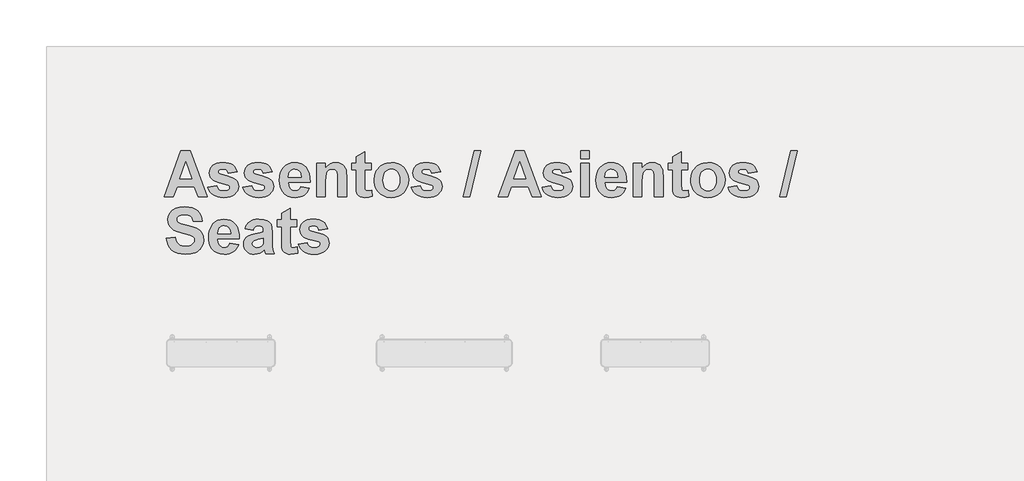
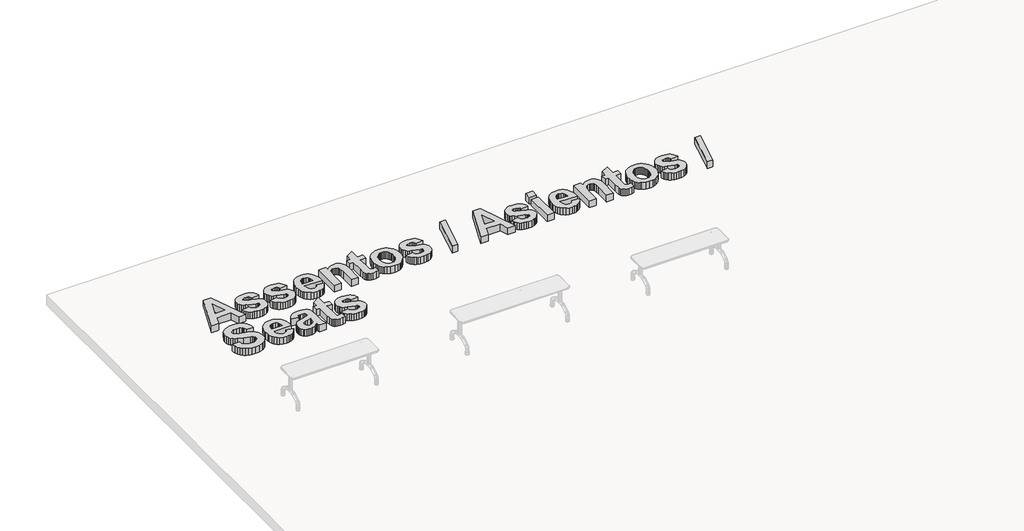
# One storey, part 7 of 11: 1 proxy.
"""IFC4 building model written with IfcOpenShell, lengths in millimetres."""

from ifc_helpers import new_model, si_unit, origin, origin_with_axes, place, context, project, spatial, polyline, outline, extrude, element, save

model = new_model("IFC4")

# Units and contexts
model_context = context("Model", 3, world=origin())
ifc_project = project(units=[si_unit("LENGTHUNIT", "METRE", prefix="MILLI")], contexts=[model_context])

# Site, building, storey
site = spatial("IfcSite", under=ifc_project)
building = spatial("IfcBuilding", under=site)
storey = spatial("IfcBuildingStorey", under=building, Name="Biblioteca BIM Revit Metadil - Refeitório", Elevation=0.0)

# Proxy
placement = place(None, origin())
element("IfcBuildingElementProxy", 1, Name="Arial 500mm", ObjectType="Arial 500mm", at=placement, inside=storey, context=model_context, shape_type="SweptSolid", body=[
    extrude(outline(polyline([(-16829.8973992, 11668.448354), (-16931.9992513, 11668.448354), (-16971.9796544, 11781.8105095), (-17164.6700148, 11781.8105095), (-17204.1443368, 11668.448354), (-17307.6379119, 11668.448354), (-17121.4000849, 12178.5780539), (-17017.9065098, 12178.5780539), (-16829.8973992, 11668.448354)]), holes=[polyline([(-17003.1036391, 11870.8807746), (-17068.7676555, 12057.1186016), (-17133.5460301, 11870.8807746), (-17003.1036391, 11870.8807746)])]), origin_with_axes(), (0.0, 0.0, 1.0), 100.0),
    extrude(outline(polyline([(-16821.8001024, 11773.7132127), (-16724.6325405, 11789.9078063), (-16715.3807462, 11765.4261355), (-16699.7713088, 11747.6500385), (-16677.266517, 11736.8325561), (-16647.3286598, 11733.2267286), (-16614.8445823, 11736.6744057), (-16591.5332239, 11747.0174372), (-16582.0442042, 11758.2777406), (-16578.8811976, 11772.8275708), (-16580.5575911, 11782.8859317), (-16585.5867715, 11791.0464887), (-16597.0684854, 11797.7204326), (-16617.3433575, 11803.8250353), (-16711.1897625, 11828.6862669), (-16742.3374697, 11840.3103161), (-16762.9681801, 11851.3966541), (-16781.6220114, 11867.9154559), (-16794.9461766, 11887.3600388), (-16802.9406757, 11909.7304028), (-16805.6055087, 11935.0265479), (-16803.3202365, 11958.1718485), (-16796.4644197, 11979.4035301), (-16785.0380585, 11998.7215927), (-16769.0411527, 12016.1260364), (-16748.236477, 12030.5177163), (-16722.3868058, 12040.7974877), (-16691.4921391, 12046.9653505), (-16655.5524769, 12049.0213047), (-16621.3366533, 12047.3607263), (-16591.8178945, 12042.3789909), (-16566.9962004, 12034.0760987), (-16546.8715711, 12022.4520495), (-16530.4792895, 12007.5701036), (-16516.8546387, 11989.493521), (-16505.9976187, 11968.2223019), (-16497.9082294, 11943.756446), (-16595.0757913, 11927.5618524), (-16602.2241861, 11948.3428055), (-16613.8007902, 11963.6201273), (-16630.5014649, 11973.0142568), (-16653.0220717, 11976.1456333), (-16680.6983792, 11973.4887078), (-16699.2019676, 11965.5179312), (-16706.128952, 11956.7880331), (-16708.4379468, 11945.7807702), (-16706.128952, 11936.2601204), (-16699.2019676, 11928.1944537), (-16671.5098451, 11916.5862196), (-16613.231449, 11900.9925972), (-16550.7778842, 11881.3503263), (-16527.8895779, 11869.9872252), (-16510.5602556, 11857.596147), (-16497.9398594, 11843.2123746), (-16488.9252907, 11826.2507519), (-16483.5165495, 11806.7112788), (-16481.7136357, 11784.5939553), (-16484.3270699, 11759.9976254), (-16492.1673724, 11737.1963018), (-16505.2345433, 11716.1899844), (-16523.5285826, 11696.9786732), (-16546.9466925, 11680.9540912), (-16575.3860753, 11669.5079612), (-16608.8467311, 11662.6402831), (-16647.3286598, 11660.3510571), (-16682.5843218, 11662.2567686), (-16713.9573933, 11667.973903), (-16741.4478742, 11677.5024603), (-16765.0557645, 11690.8424405), (-16784.8522318, 11707.4561325), (-16800.908444, 11726.8058252), (-16813.2244008, 11748.8915186), (-16821.8001024, 11773.7132127)])), origin_with_axes(), (0.0, 0.0, 1.0), 100.0),
    extrude(outline(polyline([(-16433.1298548, 11773.7132127), (-16335.9622929, 11789.9078063), (-16326.7104986, 11765.4261355), (-16311.1010612, 11747.6500385), (-16288.5962694, 11736.8325561), (-16258.6584122, 11733.2267286), (-16226.1743347, 11736.6744057), (-16202.8629763, 11747.0174372), (-16193.3739566, 11758.2777406), (-16190.21095, 11772.8275708), (-16191.8873435, 11782.8859317), (-16196.9165239, 11791.0464887), (-16208.3982378, 11797.7204326), (-16228.6731099, 11803.8250353), (-16322.5195149, 11828.6862669), (-16353.6672221, 11840.3103161), (-16374.2979325, 11851.3966541), (-16392.9517638, 11867.9154559), (-16406.275929, 11887.3600388), (-16414.2704281, 11909.7304028), (-16416.9352611, 11935.0265479), (-16414.6499889, 11958.1718485), (-16407.7941721, 11979.4035301), (-16396.3678109, 11998.7215927), (-16380.3709051, 12016.1260364), (-16359.5662294, 12030.5177163), (-16333.7165582, 12040.7974877), (-16302.8218915, 12046.9653505), (-16266.8822293, 12049.0213047), (-16232.6664057, 12047.3607263), (-16203.1476469, 12042.3789909), (-16178.3259528, 12034.0760987), (-16158.2013235, 12022.4520495), (-16141.8090419, 12007.5701036), (-16128.1843911, 11989.493521), (-16117.3273711, 11968.2223019), (-16109.2379818, 11943.756446), (-16206.4055437, 11927.5618524), (-16213.5539385, 11948.3428055), (-16225.1305426, 11963.6201273), (-16241.8312173, 11973.0142568), (-16264.3518241, 11976.1456333), (-16292.0281316, 11973.4887078), (-16310.53172, 11965.5179312), (-16317.4587044, 11956.7880331), (-16319.7676992, 11945.7807702), (-16317.4587044, 11936.2601204), (-16310.53172, 11928.1944537), (-16282.8395975, 11916.5862196), (-16224.5612014, 11900.9925972), (-16162.1076366, 11881.3503263), (-16139.2193303, 11869.9872252), (-16121.890008, 11857.596147), (-16109.2696118, 11843.2123746), (-16100.2550431, 11826.2507519), (-16094.8463019, 11806.7112788), (-16093.0433881, 11784.5939553), (-16095.6568223, 11759.9976254), (-16103.4971248, 11737.1963018), (-16116.5642957, 11716.1899844), (-16134.858335, 11696.9786732), (-16158.2764449, 11680.9540912), (-16186.7158277, 11669.5079612), (-16220.1764835, 11662.6402831), (-16258.6584122, 11660.3510571), (-16293.9140742, 11662.2567686), (-16325.2871457, 11667.973903), (-16352.7776265, 11677.5024603), (-16376.3855169, 11690.8424405), (-16396.1819842, 11707.4561325), (-16412.2381963, 11726.8058252), (-16424.5541532, 11748.8915186), (-16433.1298548, 11773.7132127)])), origin_with_axes(), (0.0, 0.0, 1.0), 100.0),
    extrude(outline(polyline([(-15793.4434056, 11781.8105095), (-15696.2758437, 11765.6159159), (-15706.7770255, 11741.4070543), (-15719.9351328, 11720.2742166), (-15735.7501657, 11702.2174029), (-15754.2221241, 11687.236613), (-15775.2640253, 11675.4741823), (-15798.7888867, 11667.0724461), (-15824.7967082, 11662.0314044), (-15853.2874899, 11660.3510571), (-15897.2928189, 11664.3127229), (-15935.1777301, 11676.1977201), (-15966.9422236, 11696.0060487), (-15992.5862994, 11723.7377088), (-16008.1957368, 11750.7735075), (-16019.345335, 11781.1462781), (-16026.0350939, 11814.8560207), (-16028.2650135, 11851.9027352), (-16025.3076024, 11895.5838559), (-16016.4353689, 11934.2674263), (-16001.6483132, 11967.9534463), (-15980.9464352, 11996.6419159), (-15955.7214578, 12019.5578985), (-15927.3651038, 12035.9264575), (-15895.8773734, 12045.7475929), (-15861.2582665, 12049.0213047), (-15822.7881991, 12045.6606103), (-15788.6040055, 12035.5785268), (-15758.7056859, 12018.7750544), (-15733.0932402, 11995.250193), (-15712.6839403, 11964.7825322), (-15698.3950581, 11927.1506615), (-15690.2265936, 11882.3545809), (-15688.1785469, 11830.3942905), (-15931.0974516, 11830.3942905), (-15924.8663287, 11789.4649854), (-15917.8365466, 11772.8433859), (-15908.197284, 11758.7838217), (-15896.5811424, 11747.6025934), (-15883.620723, 11739.6160018), (-15869.3160257, 11734.8240469), (-15853.6670507, 11733.2267286), (-15833.2656583, 11736.1050645), (-15816.3435732, 11744.7400725), (-15803.0273155, 11759.7643537), (-15793.4434056, 11781.8105095)]), holes=[polyline([(-15785.3461088, 11887.0753682), (-15791.260931, 11925.4900831), (-15797.8953373, 11940.7713586), (-15806.9810737, 11953.4352461), (-15829.8179812, 11970.4680365), (-15857.0830978, 11976.1456333), (-15872.1548241, 11974.6511127), (-15885.8664576, 11970.1675509), (-15898.2179983, 11962.6949479), (-15909.2094461, 11952.2333036), (-15918.1607547, 11939.1463639), (-15924.5183979, 11923.9243948), (-15929.4526882, 11887.0753682), (-15785.3461088, 11887.0753682)])]), origin_with_axes(), (0.0, 0.0, 1.0), 100.0),
    extrude(outline(polyline([(-15283.3137056, 11668.448354), (-15380.4812675, 11668.448354), (-15380.4812675, 11859.8735117), (-15381.9995107, 11909.9755358), (-15386.5542401, 11938.5691152), (-15394.5566467, 11954.4157782), (-15406.4179214, 11966.2770528), (-15421.5687229, 11973.6784882), (-15439.43971, 11976.1456333), (-15462.9566639, 11972.618881), (-15483.9115824, 11962.038624), (-15500.4857369, 11945.6226199), (-15510.8603984, 11924.5886262), (-15516.3165847, 11891.3612421), (-15518.1353135, 11838.365067), (-15518.1353135, 11668.448354), (-15615.3028754, 11668.448354), (-15615.3028754, 12040.9240079), (-15518.1353135, 12040.9240079), (-15518.1353135, 11987.2794164), (-15493.5508449, 12014.2914926), (-15465.9773351, 12033.5858327), (-15435.4147841, 12045.1624367), (-15401.8631919, 12049.0213047), (-15372.3207105, 12046.0797086), (-15345.4351547, 12037.2549203), (-15322.977808, 12023.8754025), (-15306.7199542, 12007.269618), (-15295.5703561, 11987.8329426), (-15288.4377762, 11965.9607522), (-15284.5947233, 11937.8574388), (-15283.3137056, 11899.7273945), (-15283.3137056, 11668.448354)])), origin_with_axes(), (0.0, 0.0, 1.0), 100.0),
    extrude(outline(polyline([(-15008.0056135, 12040.9240079), (-15008.0056135, 11968.0483365), (-15080.881285, 11968.0483365), (-15080.881285, 11808.2532445), (-15078.6671804, 11751.7619471), (-15068.6088195, 11738.4773195), (-15049.5042598, 11733.2267286), (-15003.9569651, 11742.589228), (-14999.9083167, 11673.5091645), (-15037.3899446, 11663.640584), (-15079.4895621, 11660.3510571), (-15105.3629558, 11662.6284219), (-15128.5794241, 11669.4605161), (-15147.5416485, 11679.8984378), (-15160.6523107, 11692.993285), (-15169.3031337, 11709.9786303), (-15174.8858403, 11732.0880462), (-15178.0488469, 11802.8128732), (-15178.0488469, 11968.0483365), (-15226.6326278, 11968.0483365), (-15226.6326278, 12040.9240079), (-15178.0488469, 12040.9240079), (-15178.0488469, 12113.7996793), (-15080.881285, 12170.4807571), (-15080.881285, 12040.9240079), (-15008.0056135, 12040.9240079)])), origin_with_axes(), (0.0, 0.0, 1.0), 100.0),
    extrude(outline(polyline([(-14975.6164262, 11860.000032), (-14969.6225288, 11908.1884371), (-14951.6408364, 11954.826969), (-14938.4076077, 11976.4026276), (-14922.6835113, 11995.266008), (-14904.4685472, 12011.4171104), (-14883.7627154, 12024.8559345), (-14861.1709409, 12035.428284), (-14837.2981488, 12042.9799622), (-14785.7095116, 12049.0213047), (-14745.7251548, 12045.5973501), (-14709.5284984, 12035.3254863), (-14677.1195423, 12018.2057132), (-14648.4982865, 11994.2380309), (-14625.1118067, 11965.0355727), (-14608.4071782, 11932.211472), (-14598.3844012, 11895.7657288), (-14595.0434755, 11855.698343), (-14598.419985, 11815.3107029), (-14608.5495135, 11778.5367977), (-14625.4320611, 11745.3766276), (-14649.0676277, 11715.8301924), (-14677.8193575, 11691.5580707), (-14710.0503944, 11674.220841), (-14745.7607386, 11663.8185031), (-14784.9503901, 11660.3510571), (-14834.498888, 11666.1235441), (-14881.6751311, 11683.4410051), (-14903.294281, 11696.3342107), (-14922.1616152, 11711.9238793), (-14938.2771337, 11730.210011), (-14951.6408364, 11751.1926059), (-14962.130157, 11774.7411898), (-14969.6225288, 11800.7252888), (-14974.1179519, 11829.1449029), (-14975.6164262, 11860.000032)]), holes=[polyline([(-14878.4488643, 11854.6861809), (-14876.7685171, 11826.9901046), (-14871.7274754, 11802.733798), (-14863.3257392, 11781.917261), (-14851.5633085, 11764.5404936), (-14837.3337327, 11750.8407214), (-14821.5305611, 11741.0551698), (-14804.1537937, 11735.1838389), (-14785.2034306, 11733.2267286), (-14766.260975, 11735.1838389), (-14748.9079302, 11741.0551698), (-14733.1442962, 11750.8407214), (-14718.970073, 11764.5404936), (-14707.2629949, 11781.9647061), (-14698.9007963, 11802.9235784), (-14693.8834771, 11827.4171105), (-14692.2110374, 11855.4453025), (-14693.8834771, 11882.8092631), (-14698.9007963, 11906.8283443), (-14707.2629949, 11927.502546), (-14718.970073, 11944.8318682), (-14733.1442962, 11958.5316405), (-14748.9079302, 11968.317192), (-14766.260975, 11974.188523), (-14785.2034306, 11976.1456333), (-14804.1537937, 11974.188523), (-14821.5305611, 11968.317192), (-14837.3337327, 11958.5316405), (-14851.5633085, 11944.8318682), (-14863.3257392, 11927.4551009), (-14871.7274754, 11906.6385639), (-14876.7685171, 11882.3822572), (-14878.4488643, 11854.6861809)])]), origin_with_axes(), (0.0, 0.0, 1.0), 100.0),
    extrude(outline(polyline([(-14562.6542882, 11773.7132127), (-14465.4867263, 11789.9078063), (-14456.234932, 11765.4261355), (-14440.6254946, 11747.6500385), (-14418.1207028, 11736.8325561), (-14388.1828456, 11733.2267286), (-14355.6987681, 11736.6744057), (-14332.3874097, 11747.0174372), (-14322.89839, 11758.2777406), (-14319.7353834, 11772.8275708), (-14321.4117769, 11782.8859317), (-14326.4409574, 11791.0464887), (-14337.9226712, 11797.7204326), (-14358.1975433, 11803.8250353), (-14452.0439483, 11828.6862669), (-14483.1916556, 11840.3103161), (-14503.8223659, 11851.3966541), (-14522.4761972, 11867.9154559), (-14535.8003624, 11887.3600388), (-14543.7948615, 11909.7304028), (-14546.4596945, 11935.0265479), (-14544.1744223, 11958.1718485), (-14537.3186055, 11979.4035301), (-14525.8922443, 11998.7215927), (-14509.8953385, 12016.1260364), (-14489.0906628, 12030.5177163), (-14463.2409916, 12040.7974877), (-14432.3463249, 12046.9653505), (-14396.4066627, 12049.0213047), (-14362.1908391, 12047.3607263), (-14332.6720803, 12042.3789909), (-14307.8503862, 12034.0760987), (-14287.7257569, 12022.4520495), (-14271.3334753, 12007.5701036), (-14257.7088245, 11989.493521), (-14246.8518045, 11968.2223019), (-14238.7624152, 11943.756446), (-14335.9299771, 11927.5618524), (-14343.0783719, 11948.3428055), (-14354.654976, 11963.6201273), (-14371.3556507, 11973.0142568), (-14393.8762575, 11976.1456333), (-14421.552565, 11973.4887078), (-14440.0561534, 11965.5179312), (-14446.9831378, 11956.7880331), (-14449.2921326, 11945.7807702), (-14446.9831378, 11936.2601204), (-14440.0561534, 11928.1944537), (-14412.3640309, 11916.5862196), (-14354.0856348, 11900.9925972), (-14291.63207, 11881.3503263), (-14268.7437637, 11869.9872252), (-14251.4144415, 11857.596147), (-14238.7940452, 11843.2123746), (-14229.7794765, 11826.2507519), (-14224.3707353, 11806.7112788), (-14222.5678215, 11784.5939553), (-14225.1812557, 11759.9976254), (-14233.0215582, 11737.1963018), (-14246.0887291, 11716.1899844), (-14264.3827684, 11696.9786732), (-14287.8008783, 11680.9540912), (-14316.2402612, 11669.5079612), (-14349.7009169, 11662.6402831), (-14388.1828456, 11660.3510571), (-14423.4385076, 11662.2567686), (-14454.8115791, 11667.973903), (-14482.30206, 11677.5024603), (-14505.9099503, 11690.8424405), (-14525.7064176, 11707.4561325), (-14541.7626298, 11726.8058252), (-14554.0785866, 11748.8915186), (-14562.6542882, 11773.7132127)])), origin_with_axes(), (0.0, 0.0, 1.0), 100.0),
    extrude(outline(polyline([(-13989.5174973, 11668.448354), (-13868.0580449, 12178.5780539), (-13793.4110898, 12178.5780539), (-13914.8705422, 11668.448354), (-13989.5174973, 11668.448354)])), origin_with_axes(), (0.0, 0.0, 1.0), 100.0),
    extrude(outline(polyline([(-13121.3354533, 11668.448354), (-13223.4373055, 11668.448354), (-13263.4177085, 11781.8105095), (-13456.1080689, 11781.8105095), (-13495.5823909, 11668.448354), (-13599.075966, 11668.448354), (-13412.838139, 12178.5780539), (-13309.344564, 12178.5780539), (-13121.3354533, 11668.448354)]), holes=[polyline([(-13294.5416932, 11870.8807746), (-13360.2057096, 12057.1186016), (-13424.9840843, 11870.8807746), (-13294.5416932, 11870.8807746)])]), origin_with_axes(), (0.0, 0.0, 1.0), 100.0),
    extrude(outline(polyline([(-13113.2381565, 11773.7132127), (-13016.0705946, 11789.9078063), (-13006.8188004, 11765.4261355), (-12991.2093629, 11747.6500385), (-12968.7045712, 11736.8325561), (-12938.766714, 11733.2267286), (-12906.2826365, 11736.6744057), (-12882.971278, 11747.0174372), (-12873.4822583, 11758.2777406), (-12870.3192517, 11772.8275708), (-12871.9956452, 11782.8859317), (-12877.0248257, 11791.0464887), (-12888.5065395, 11797.7204326), (-12908.7814117, 11803.8250353), (-13002.6278167, 11828.6862669), (-13033.7755239, 11840.3103161), (-13054.4062342, 11851.3966541), (-13073.0600655, 11867.9154559), (-13086.3842307, 11887.3600388), (-13094.3787298, 11909.7304028), (-13097.0435628, 11935.0265479), (-13094.7582906, 11958.1718485), (-13087.9024738, 11979.4035301), (-13076.4761126, 11998.7215927), (-13060.4792069, 12016.1260364), (-13039.6745311, 12030.5177163), (-13013.8248599, 12040.7974877), (-12982.9301932, 12046.9653505), (-12946.990531, 12049.0213047), (-12912.7747075, 12047.3607263), (-12883.2559486, 12042.3789909), (-12858.4342545, 12034.0760987), (-12838.3096252, 12022.4520495), (-12821.9173437, 12007.5701036), (-12808.2926929, 11989.493521), (-12797.4356728, 11968.2223019), (-12789.3462835, 11943.756446), (-12886.5138454, 11927.5618524), (-12893.6622402, 11948.3428055), (-12905.2388443, 11963.6201273), (-12921.939519, 11973.0142568), (-12944.4601258, 11976.1456333), (-12972.1364333, 11973.4887078), (-12990.6400217, 11965.5179312), (-12997.5670061, 11956.7880331), (-12999.8760009, 11945.7807702), (-12997.5670061, 11936.2601204), (-12990.6400217, 11928.1944537), (-12962.9478992, 11916.5862196), (-12904.6695031, 11900.9925972), (-12842.2159383, 11881.3503263), (-12819.327632, 11869.9872252), (-12801.9983098, 11857.596147), (-12789.3779135, 11843.2123746), (-12780.3633448, 11826.2507519), (-12774.9546036, 11806.7112788), (-12773.1516898, 11784.5939553), (-12775.765124, 11759.9976254), (-12783.6054266, 11737.1963018), (-12796.6725975, 11716.1899844), (-12814.9666367, 11696.9786732), (-12838.3847466, 11680.9540912), (-12866.8241295, 11669.5079612), (-12900.2847852, 11662.6402831), (-12938.766714, 11660.3510571), (-12974.022376, 11662.2567686), (-13005.3954474, 11667.973903), (-13032.8859283, 11677.5024603), (-13056.4938186, 11690.8424405), (-13076.290286, 11707.4561325), (-13092.3464981, 11726.8058252), (-13104.6624549, 11748.8915186), (-13113.2381565, 11773.7132127)])), origin_with_axes(), (0.0, 0.0, 1.0), 100.0),
    extrude(outline(polyline([(-12684.0814248, 12089.5077889), (-12684.0814248, 12178.5780539), (-12586.9138629, 12178.5780539), (-12586.9138629, 12089.5077889), (-12684.0814248, 12089.5077889)])), origin_with_axes(), (0.0, 0.0, 1.0), 100.0),
    extrude(outline(polyline([(-12684.0814248, 11668.448354), (-12684.0814248, 12040.9240079), (-12586.9138629, 12040.9240079), (-12586.9138629, 11668.448354), (-12684.0814248, 11668.448354)])), origin_with_axes(), (0.0, 0.0, 1.0), 100.0),
    extrude(outline(polyline([(-12279.2165835, 11781.8105095), (-12182.0490216, 11765.6159159), (-12192.5502034, 11741.4070543), (-12205.7083108, 11720.2742166), (-12221.5233436, 11702.2174029), (-12239.995302, 11687.236613), (-12261.0372032, 11675.4741823), (-12284.5620646, 11667.0724461), (-12310.5698862, 11662.0314044), (-12339.0606679, 11660.3510571), (-12383.0659968, 11664.3127229), (-12420.950908, 11676.1977201), (-12452.7154015, 11696.0060487), (-12478.3594773, 11723.7377088), (-12493.9689147, 11750.7735075), (-12505.1185129, 11781.1462781), (-12511.8082718, 11814.8560207), (-12514.0381914, 11851.9027352), (-12511.0807803, 11895.5838559), (-12502.2085469, 11934.2674263), (-12487.4214911, 11967.9534463), (-12466.7196131, 11996.6419159), (-12441.4946357, 12019.5578985), (-12413.1382818, 12035.9264575), (-12381.6505513, 12045.7475929), (-12347.0314444, 12049.0213047), (-12308.561377, 12045.6606103), (-12274.3771834, 12035.5785268), (-12244.4788638, 12018.7750544), (-12218.8664181, 11995.250193), (-12198.4571182, 11964.7825322), (-12184.168236, 11927.1506615), (-12175.9997715, 11882.3545809), (-12173.9517248, 11830.3942905), (-12416.8706295, 11830.3942905), (-12410.6395066, 11789.4649854), (-12403.6097245, 11772.8433859), (-12393.9704619, 11758.7838217), (-12382.3543203, 11747.6025934), (-12369.3939009, 11739.6160018), (-12355.0892037, 11734.8240469), (-12339.4402286, 11733.2267286), (-12319.0388362, 11736.1050645), (-12302.1167511, 11744.7400725), (-12288.8004934, 11759.7643537), (-12279.2165835, 11781.8105095)]), holes=[polyline([(-12271.1192867, 11887.0753682), (-12277.034109, 11925.4900831), (-12283.6685153, 11940.7713586), (-12292.7542516, 11953.4352461), (-12315.5911591, 11970.4680365), (-12342.8562757, 11976.1456333), (-12357.9280021, 11974.6511127), (-12371.6396355, 11970.1675509), (-12383.9911762, 11962.6949479), (-12394.9826241, 11952.2333036), (-12403.9339327, 11939.1463639), (-12410.2915759, 11923.9243948), (-12415.2258661, 11887.0753682), (-12271.1192867, 11887.0753682)])]), origin_with_axes(), (0.0, 0.0, 1.0), 100.0),
    extrude(outline(polyline([(-11769.0868835, 11668.448354), (-11866.2544454, 11668.448354), (-11866.2544454, 11859.8735117), (-11867.7726886, 11909.9755358), (-11872.327418, 11938.5691152), (-11880.3298247, 11954.4157782), (-11892.1910993, 11966.2770528), (-11907.3419008, 11973.6784882), (-11925.2128879, 11976.1456333), (-11948.7298418, 11972.618881), (-11969.6847603, 11962.038624), (-11986.2589148, 11945.6226199), (-11996.6335763, 11924.5886262), (-12002.0897627, 11891.3612421), (-12003.9084915, 11838.365067), (-12003.9084915, 11668.448354), (-12101.0760534, 11668.448354), (-12101.0760534, 12040.9240079), (-12003.9084915, 12040.9240079), (-12003.9084915, 11987.2794164), (-11979.3240229, 12014.2914926), (-11951.7505131, 12033.5858327), (-11921.1879621, 12045.1624367), (-11887.6363699, 12049.0213047), (-11858.0938885, 12046.0797086), (-11831.2083326, 12037.2549203), (-11808.7509859, 12023.8754025), (-11792.4931322, 12007.269618), (-11781.343534, 11987.8329426), (-11774.2109542, 11965.9607522), (-11770.3679012, 11937.8574388), (-11769.0868835, 11899.7273945), (-11769.0868835, 11668.448354)])), origin_with_axes(), (0.0, 0.0, 1.0), 100.0),
    extrude(outline(polyline([(-11493.7787915, 12040.9240079), (-11493.7787915, 11968.0483365), (-11566.6544629, 11968.0483365), (-11566.6544629, 11808.2532445), (-11564.4403583, 11751.7619471), (-11554.3819974, 11738.4773195), (-11535.2774377, 11733.2267286), (-11489.7301431, 11742.589228), (-11485.6814946, 11673.5091645), (-11523.1631225, 11663.640584), (-11565.26274, 11660.3510571), (-11591.1361338, 11662.6284219), (-11614.352602, 11669.4605161), (-11633.3148264, 11679.8984378), (-11646.4254887, 11692.993285), (-11655.0763116, 11709.9786303), (-11660.6590182, 11732.0880462), (-11663.8220248, 11802.8128732), (-11663.8220248, 11968.0483365), (-11712.4058058, 11968.0483365), (-11712.4058058, 12040.9240079), (-11663.8220248, 12040.9240079), (-11663.8220248, 12113.7996793), (-11566.6544629, 12170.4807571), (-11566.6544629, 12040.9240079), (-11493.7787915, 12040.9240079)])), origin_with_axes(), (0.0, 0.0, 1.0), 100.0),
    extrude(outline(polyline([(-11461.3896042, 11860.000032), (-11455.3957067, 11908.1884371), (-11437.4140144, 11954.826969), (-11424.1807856, 11976.4026276), (-11408.4566892, 11995.266008), (-11390.2417251, 12011.4171104), (-11369.5358933, 12024.8559345), (-11346.9441189, 12035.428284), (-11323.0713268, 12042.9799622), (-11271.4826896, 12049.0213047), (-11231.4983327, 12045.5973501), (-11195.3016763, 12035.3254863), (-11162.8927202, 12018.2057132), (-11134.2714645, 11994.2380309), (-11110.8849846, 11965.0355727), (-11094.1803562, 11932.211472), (-11084.1575791, 11895.7657288), (-11080.8166534, 11855.698343), (-11084.1931629, 11815.3107029), (-11094.3226915, 11778.5367977), (-11111.205239, 11745.3766276), (-11134.8408057, 11715.8301924), (-11163.5925354, 11691.5580707), (-11195.8235724, 11674.220841), (-11231.5339166, 11663.8185031), (-11270.723568, 11660.3510571), (-11320.272066, 11666.1235441), (-11367.448309, 11683.4410051), (-11389.0674589, 11696.3342107), (-11407.9347931, 11711.9238793), (-11424.0503116, 11730.210011), (-11437.4140144, 11751.1926059), (-11447.9033349, 11774.7411898), (-11455.3957067, 11800.7252888), (-11459.8911298, 11829.1449029), (-11461.3896042, 11860.000032)]), holes=[polyline([(-11364.2220423, 11854.6861809), (-11362.541695, 11826.9901046), (-11357.5006533, 11802.733798), (-11349.0989171, 11781.917261), (-11337.3364864, 11764.5404936), (-11323.1069106, 11750.8407214), (-11307.303739, 11741.0551698), (-11289.9269716, 11735.1838389), (-11270.9766085, 11733.2267286), (-11252.0341529, 11735.1838389), (-11234.6811081, 11741.0551698), (-11218.9174741, 11750.8407214), (-11204.7432509, 11764.5404936), (-11193.0361728, 11781.9647061), (-11184.6739742, 11802.9235784), (-11179.656655, 11827.4171105), (-11177.9842153, 11855.4453025), (-11179.656655, 11882.8092631), (-11184.6739742, 11906.8283443), (-11193.0361728, 11927.502546), (-11204.7432509, 11944.8318682), (-11218.9174741, 11958.5316405), (-11234.6811081, 11968.317192), (-11252.0341529, 11974.188523), (-11270.9766085, 11976.1456333), (-11289.9269716, 11974.188523), (-11307.303739, 11968.317192), (-11323.1069106, 11958.5316405), (-11337.3364864, 11944.8318682), (-11349.0989171, 11927.4551009), (-11357.5006533, 11906.6385639), (-11362.541695, 11882.3822572), (-11364.2220423, 11854.6861809)])]), origin_with_axes(), (0.0, 0.0, 1.0), 100.0),
    extrude(outline(polyline([(-11048.4274661, 11773.7132127), (-10951.2599042, 11789.9078063), (-10942.00811, 11765.4261355), (-10926.3986725, 11747.6500385), (-10903.8938808, 11736.8325561), (-10873.9560236, 11733.2267286), (-10841.4719461, 11736.6744057), (-10818.1605876, 11747.0174372), (-10808.6715679, 11758.2777406), (-10805.5085613, 11772.8275708), (-10807.1849548, 11782.8859317), (-10812.2141353, 11791.0464887), (-10823.6958491, 11797.7204326), (-10843.9707213, 11803.8250353), (-10937.8171263, 11828.6862669), (-10968.9648335, 11840.3103161), (-10989.5955439, 11851.3966541), (-11008.2493751, 11867.9154559), (-11021.5735403, 11887.3600388), (-11029.5680394, 11909.7304028), (-11032.2328724, 11935.0265479), (-11029.9476002, 11958.1718485), (-11023.0917835, 11979.4035301), (-11011.6654222, 11998.7215927), (-10995.6685165, 12016.1260364), (-10974.8638407, 12030.5177163), (-10949.0141695, 12040.7974877), (-10918.1195028, 12046.9653505), (-10882.1798407, 12049.0213047), (-10847.9640171, 12047.3607263), (-10818.4452582, 12042.3789909), (-10793.6235641, 12034.0760987), (-10773.4989348, 12022.4520495), (-10757.1066533, 12007.5701036), (-10743.4820025, 11989.493521), (-10732.6249824, 11968.2223019), (-10724.5355931, 11943.756446), (-10821.703155, 11927.5618524), (-10828.8515498, 11948.3428055), (-10840.4281539, 11963.6201273), (-10857.1288286, 11973.0142568), (-10879.6494354, 11976.1456333), (-10907.3257429, 11973.4887078), (-10925.8293314, 11965.5179312), (-10932.7563157, 11956.7880331), (-10935.0653105, 11945.7807702), (-10932.7563157, 11936.2601204), (-10925.8293314, 11928.1944537), (-10898.1372088, 11916.5862196), (-10839.8588127, 11900.9925972), (-10777.405248, 11881.3503263), (-10754.5169416, 11869.9872252), (-10737.1876194, 11857.596147), (-10724.5672232, 11843.2123746), (-10715.5526544, 11826.2507519), (-10710.1439132, 11806.7112788), (-10708.3409994, 11784.5939553), (-10710.9544336, 11759.9976254), (-10718.7947362, 11737.1963018), (-10731.8619071, 11716.1899844), (-10750.1559463, 11696.9786732), (-10773.5740562, 11680.9540912), (-10802.0134391, 11669.5079612), (-10835.4740949, 11662.6402831), (-10873.9560236, 11660.3510571), (-10909.2116856, 11662.2567686), (-10940.584757, 11667.973903), (-10968.0752379, 11677.5024603), (-10991.6831282, 11690.8424405), (-11011.4795956, 11707.4561325), (-11027.5358077, 11726.8058252), (-11039.8517645, 11748.8915186), (-11048.4274661, 11773.7132127)])), origin_with_axes(), (0.0, 0.0, 1.0), 100.0),
    extrude(outline(polyline([(-10475.2906752, 11668.448354), (-10353.8312228, 12178.5780539), (-10279.1842677, 12178.5780539), (-10400.6437201, 11668.448354), (-10475.2906752, 11668.448354)])), origin_with_axes(), (0.0, 0.0, 1.0), 100.0),
    extrude(outline(polyline([(-17283.3460214, 11208.9348381), (-17186.1784595, 11217.0321349), (-17180.2952673, 11193.6417013), (-17172.00819, 11173.5724246), (-17161.3172278, 11156.8243048), (-17148.2223806, 11143.3973419), (-17132.6841108, 11133.1017555), (-17114.6628809, 11125.7477652), (-17094.1586908, 11121.3353711), (-17071.1715405, 11119.864573), (-17026.0354367, 11125.0677188), (-17008.2356172, 11131.5716511), (-16993.6146194, 11140.6771563), (-16974.0672388, 11163.2452082), (-16969.1803936, 11175.8458356), (-16967.5514452, 11189.3241973), (-16970.2558158, 11205.8509067), (-16978.3689277, 11219.7523206), (-16993.2508736, 11231.50289), (-17016.2617464, 11241.5770659), (-17100.5242415, 11263.2120309), (-17172.451011, 11285.5744873), (-17198.9728211, 11298.629797), (-17219.2002481, 11312.9344942), (-17240.1788892, 11335.0834477), (-17255.1636328, 11359.525581), (-17264.154479, 11386.260894), (-17267.1514277, 11415.2893869), (-17261.6477963, 11452.8659049), (-17245.136902, 11487.9120178), (-17218.2513461, 11517.6759096), (-17181.62373, 11539.4057648), (-17135.8550249, 11552.6903924), (-17081.5462021, 11557.1186016), (-17036.6196475, 11554.3588783), (-16997.6158227, 11546.0797086), (-16964.5347277, 11532.2810925), (-16937.3763625, 11512.9630298), (-16916.0537445, 11489.0427926), (-16900.4798908, 11461.4376528), (-16890.6548017, 11430.1476102), (-16886.578477, 11395.1726651), (-16983.7460389, 11395.1726651), (-16994.4844462, 11428.5581994), (-17002.7833847, 11441.1588269), (-17013.0354797, 11451.0313611), (-17041.1071631, 11463.7940927), (-17080.4075197, 11468.0483365), (-17121.7796457, 11463.5252371), (-17153.0301506, 11449.9559389), (-17165.745437, 11436.3550106), (-17169.9838658, 11418.8319542), (-17166.1249978, 11402.2894299), (-17154.5483938, 11388.3405709), (-17120.9414489, 11372.0036419), (-17059.3418959, 11355.1290019), (-16993.5988043, 11337.5743154), (-16947.5612437, 11319.1972472), (-16915.2985766, 11296.945496), (-16890.8801659, 11267.7667603), (-16875.507954, 11231.2972946), (-16870.3838833, 11187.1733529), (-16876.4410409, 11145.0421053), (-16894.6125137, 11105.6943036), (-16907.9841239, 11087.9340217), (-16923.8703244, 11072.6092548), (-16942.2711152, 11059.720003), (-16963.1864961, 11049.2662663), (-17012.9880346, 11035.4122975), (-17073.7019458, 11030.7943079), (-17119.1069051, 11033.6370601), (-17158.9133428, 11042.1653166), (-17193.1212589, 11056.3790773), (-17221.7306534, 11076.2783424), (-17244.9392141, 11101.6258864), (-17262.944629, 11132.1844836), (-17275.7468981, 11167.9541342), (-17283.3460214, 11208.9348381)])), origin_with_axes(), (0.0, 0.0, 1.0), 100.0),
    extrude(outline(polyline([(-16578.8811976, 11152.2537603), (-16481.7136357, 11136.0591667), (-16492.2148175, 11111.8503051), (-16505.3729249, 11090.7174674), (-16521.1879577, 11072.6606537), (-16539.6599161, 11057.6798638), (-16560.7018173, 11045.9174331), (-16584.2266787, 11037.5156969), (-16610.2345003, 11032.4746552), (-16638.725282, 11030.7943079), (-16682.7306109, 11034.7559737), (-16720.6155221, 11046.6409709), (-16752.3800156, 11066.4492995), (-16778.0240914, 11094.1809596), (-16793.6335288, 11121.2167583), (-16804.783127, 11151.5895289), (-16811.4728859, 11185.2992715), (-16813.7028055, 11222.345986), (-16810.7453944, 11266.0271067), (-16801.873161, 11304.7106771), (-16787.0861052, 11338.3966971), (-16766.3842272, 11367.0851667), (-16741.1592498, 11390.0011493), (-16712.8028959, 11406.3697083), (-16681.3151655, 11416.1908437), (-16646.6960585, 11419.4645555), (-16608.2259911, 11416.1038611), (-16574.0417976, 11406.0217776), (-16544.1434779, 11389.2183052), (-16518.5310322, 11365.6934438), (-16498.1217323, 11335.225783), (-16483.8328501, 11297.5939123), (-16475.6643856, 11252.7978317), (-16473.6163389, 11200.8375413), (-16716.5352436, 11200.8375413), (-16710.3041207, 11159.9082362), (-16703.2743386, 11143.2866367), (-16693.6350761, 11129.2270725), (-16682.0189344, 11118.0458442), (-16669.058515, 11110.0592526), (-16654.7538178, 11105.2672977), (-16639.1048427, 11103.6699794), (-16618.7034504, 11106.5483153), (-16601.7813652, 11115.1833233), (-16588.4651075, 11130.2076045), (-16578.8811976, 11152.2537603)]), holes=[polyline([(-16570.7839008, 11257.518619), (-16576.6987231, 11295.9333339), (-16583.3331294, 11311.2146094), (-16592.4188657, 11323.8784969), (-16615.2557732, 11340.9112873), (-16642.5208898, 11346.5888841), (-16657.5926162, 11345.0943635), (-16671.3042497, 11340.6108017), (-16683.6557903, 11333.1381987), (-16694.6472382, 11322.6765544), (-16703.5985468, 11309.5896147), (-16709.95619, 11294.3676456), (-16714.8904802, 11257.518619), (-16570.7839008, 11257.518619)])]), origin_with_axes(), (0.0, 0.0, 1.0), 100.0),
    extrude(outline(polyline([(-16319.7676992, 11298.0051032), (-16408.8379643, 11314.1996968), (-16400.4678581, 11339.2823389), (-16389.5278092, 11360.8856738), (-16376.0178173, 11379.0097015), (-16359.9378827, 11393.6544219), (-16340.473531, 11404.9463554), (-16316.8102881, 11413.0120221), (-16288.9481539, 11417.8514222), (-16256.8871286, 11419.4645555), (-16202.704826, 11415.5582424), (-16164.4008164, 11403.8393031), (-16138.5274226, 11386.1264663), (-16121.6369675, 11364.2384608), (-16112.3377282, 11330.2203251), (-16109.2379818, 11276.1170977), (-16109.2379818, 11161.236699), (-16107.9569641, 11118.5993704), (-16104.1139111, 11088.8671086), (-16096.7599208, 11064.7333685), (-16084.9460913, 11038.8916048), (-16182.1136532, 11038.8916048), (-16191.2231121, 11069.7625489), (-16194.6391592, 11082.0350144), (-16219.7850615, 11059.6567429), (-16246.6389873, 11043.6361146), (-16275.2641967, 11034.0047596), (-16305.72395, 11030.7943079), (-16331.9650433, 11032.7435107), (-16355.272448, 11038.5911191), (-16375.6461641, 11048.3371331), (-16393.0861916, 11061.9815527), (-16407.0627268, 11078.5991985), (-16417.0459663, 11097.2648911), (-16423.03591, 11117.9786303), (-16425.0325579, 11140.7404164), (-16421.4741755, 11170.5359383), (-16410.7990284, 11196.9154131), (-16393.7029778, 11218.7085284), (-16370.8818854, 11234.7449717), (-16339.5364903, 11247.0490673), (-16296.8675316, 11257.6451393), (-16241.6098068, 11270.1390153), (-16206.4055437, 11281.8105095), (-16206.4055437, 11292.0586508), (-16209.4262149, 11317.2994433), (-16218.4882288, 11334.0633781), (-16235.9005799, 11343.4575076), (-16263.9722633, 11346.5888841), (-16284.1206151, 11343.9003285), (-16299.2714166, 11335.8346618), (-16310.7215004, 11321.0001609), (-16319.7676992, 11298.0051032)]), holes=[polyline([(-16206.4055437, 11208.9348381), (-16261.1888175, 11195.4604301), (-16292.1862819, 11187.726879), (-16310.2786795, 11180.0882181), (-16323.4684169, 11166.2658794), (-16327.864996, 11149.0907537), (-16324.3382437, 11131.868183), (-16313.7579867, 11117.1443874), (-16297.7373584, 11107.0385814), (-16277.8894922, 11103.6699794), (-16254.0720527, 11107.5921075), (-16231.4565557, 11119.358492), (-16217.8556274, 11132.5798594), (-16209.948111, 11148.4581524), (-16206.4055437, 11191.3485215), (-16206.4055437, 11208.9348381)])]), origin_with_axes(), (0.0, 0.0, 1.0), 100.0),
    extrude(outline(polyline([(-15833.9298897, 11411.3672587), (-15833.9298897, 11338.4915873), (-15906.8055611, 11338.4915873), (-15906.8055611, 11178.6964953), (-15904.5914565, 11122.2051979), (-15894.5330956, 11108.9205703), (-15875.4285359, 11103.6699794), (-15829.8812413, 11113.0324788), (-15825.8325929, 11043.9524153), (-15863.3142208, 11034.0838348), (-15905.4138382, 11030.7943079), (-15931.287232, 11033.0716727), (-15954.5037002, 11039.9037669), (-15973.4659246, 11050.3416886), (-15986.5765869, 11063.4365358), (-15995.2274099, 11080.4218811), (-16000.8101165, 11102.531297), (-16003.973123, 11173.256124), (-16003.973123, 11338.4915873), (-16052.556904, 11338.4915873), (-16052.556904, 11411.3672587), (-16003.973123, 11411.3672587), (-16003.973123, 11484.2429301), (-15906.8055611, 11540.9240079), (-15906.8055611, 11411.3672587), (-15833.9298897, 11411.3672587)])), origin_with_axes(), (0.0, 0.0, 1.0), 100.0),
    extrude(outline(polyline([(-15817.7352961, 11144.1564635), (-15720.5677342, 11160.3510571), (-15711.3159399, 11135.8693863), (-15695.7065025, 11118.0932893), (-15673.2017107, 11107.2758069), (-15643.2638535, 11103.6699794), (-15610.779776, 11107.1176565), (-15587.4684176, 11117.460688), (-15577.9793979, 11128.7209914), (-15574.8163913, 11143.2708216), (-15576.4927848, 11153.3291825), (-15581.5219652, 11161.4897395), (-15593.0036791, 11168.1636834), (-15613.2785512, 11174.2682861), (-15707.1249562, 11199.1295177), (-15738.2726634, 11210.7535669), (-15758.9033738, 11221.8399049), (-15777.5572051, 11238.3587067), (-15790.8813703, 11257.8032896), (-15798.8758694, 11280.1736536), (-15801.5407024, 11305.4697987), (-15799.2554302, 11328.6150993), (-15792.3996134, 11349.8467809), (-15780.9732522, 11369.1648435), (-15764.9763464, 11386.5692872), (-15744.1716707, 11400.9609671), (-15718.3219995, 11411.2407385), (-15687.4273328, 11417.4086013), (-15651.4876706, 11419.4645555), (-15617.271847, 11417.8039771), (-15587.7530882, 11412.8222417), (-15562.9313941, 11404.5193495), (-15542.8067648, 11392.8953003), (-15526.4144832, 11378.0133544), (-15512.7898324, 11359.9367718), (-15501.9328124, 11338.6655527), (-15493.8434231, 11314.1996968), (-15591.010985, 11298.0051032), (-15598.1593798, 11318.7860563), (-15609.7359839, 11334.0633781), (-15626.4366586, 11343.4575076), (-15648.9572654, 11346.5888841), (-15676.6335729, 11343.9319586), (-15695.1371613, 11335.961182), (-15702.0641457, 11327.2312839), (-15704.3731405, 11316.224021), (-15702.0641457, 11306.7033712), (-15695.1371613, 11298.6377045), (-15667.4450388, 11287.0294704), (-15609.1666427, 11271.435848), (-15546.7130779, 11251.7935771), (-15523.8247716, 11240.430476), (-15506.4954493, 11228.0393978), (-15493.8750531, 11213.6556254), (-15484.8604844, 11196.6940027), (-15479.4517431, 11177.1545296), (-15477.6488294, 11155.0372061), (-15480.2622636, 11130.4408762), (-15488.1025661, 11107.6395526), (-15501.169737, 11086.6332352), (-15519.4637763, 11067.421924), (-15542.8818862, 11051.397342), (-15571.321269, 11039.951212), (-15604.7819248, 11033.0835339), (-15643.2638535, 11030.7943079), (-15678.5195155, 11032.7000194), (-15709.892587, 11038.4171538), (-15737.3830678, 11047.9457111), (-15760.9909581, 11061.2856913), (-15780.7874255, 11077.8993833), (-15796.8436376, 11097.249076), (-15809.1595945, 11119.3347694), (-15817.7352961, 11144.1564635)])), origin_with_axes(), (0.0, 0.0, 1.0), 100.0),
])

save(model, "model.ifc")
